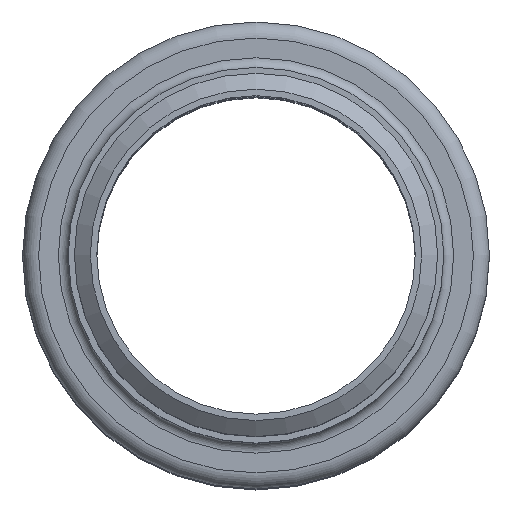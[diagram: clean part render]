
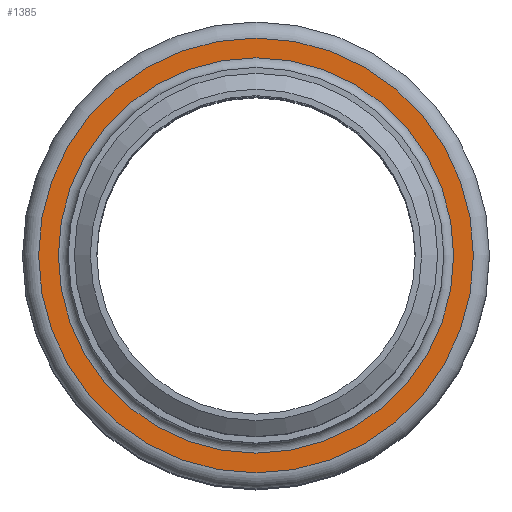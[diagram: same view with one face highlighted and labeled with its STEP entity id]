
A CAD part, top view. The second image highlights one B-rep face of the part: STEP entity #1385.
In plain terms, the highlighted planar face has unit normal (0, 0, 1).
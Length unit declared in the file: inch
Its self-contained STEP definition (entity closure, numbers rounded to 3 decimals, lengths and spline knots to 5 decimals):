
#155=FACE_BOUND('',#416,.T.);
#256=FACE_OUTER_BOUND('',#415,.T.);
#415=EDGE_LOOP('',(#1168));
#416=EDGE_LOOP('',(#1169));
#584=CIRCLE('',#1684,1.905);
#585=CIRCLE('',#1686,2.095);
#703=VERTEX_POINT('',#2631);
#704=VERTEX_POINT('',#2635);
#862=EDGE_CURVE('',#703,#703,#584,.T.);
#863=EDGE_CURVE('',#704,#704,#585,.T.);
#1168=ORIENTED_EDGE('',*,*,#863,.F.);
#1169=ORIENTED_EDGE('',*,*,#862,.T.);
#1284=PLANE('',#1685);
#1385=ADVANCED_FACE('',(#256,#155),#1284,.T.);
#1684=AXIS2_PLACEMENT_3D('',#2633,#2197,#2198);
#1685=AXIS2_PLACEMENT_3D('',#2634,#2199,#2200);
#1686=AXIS2_PLACEMENT_3D('',#2636,#2201,#2202);
#2197=DIRECTION('center_axis',(0.,0.,-1.));
#2198=DIRECTION('ref_axis',(1.,0.,0.));
#2199=DIRECTION('center_axis',(0.,0.,1.));
#2200=DIRECTION('ref_axis',(1.,0.,0.));
#2201=DIRECTION('center_axis',(0.,0.,-1.));
#2202=DIRECTION('ref_axis',(1.,0.,0.));
#2631=CARTESIAN_POINT('',(1.905,0.,-0.095));
#2633=CARTESIAN_POINT('Origin',(0.,0.,-0.095));
#2634=CARTESIAN_POINT('Origin',(0.,2.095,-0.095));
#2635=CARTESIAN_POINT('',(2.095,0.,-0.095));
#2636=CARTESIAN_POINT('Origin',(0.,0.,-0.095));
